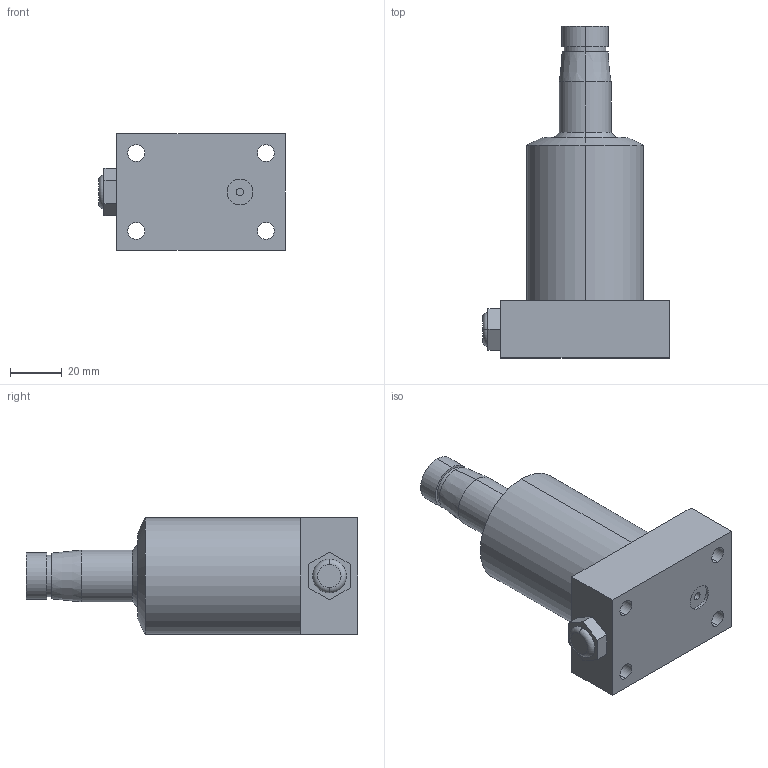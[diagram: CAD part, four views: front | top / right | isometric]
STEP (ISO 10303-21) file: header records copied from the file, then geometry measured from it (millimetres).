
FILE_DESCRIPTION (( 'STEP AP214' ), '1' );
FILE_NAME ('HPS-25-S-B.STEP', '2021-10-18T01:10:32', ( '' ), ( '' ), 'SwSTEP 2.0', 'SolidWorks 2016', '' );
FILE_SCHEMA (( 'AUTOMOTIVE_DESIGN' ));
Length unit declared in the file: millimetre
Products named in the file (1): HPS-25-S-B
Bounding box: 72 x 128 x 45 mm (x, y, z)
Volume: 172368.2 mm3; surface area: 24336.2 mm2
Topology: 1 solids, 1 shells, 53 faces, 120 edges, 75 vertices
Faces by surface type: cylinder 22, plane 21, cone 8, torus 2
Entity records: 1618 total; most frequent: DIRECTION 282, CARTESIAN_POINT 247, ORIENTED_EDGE 236, EDGE_CURVE 118, AXIS2_PLACEMENT_3D 110, VERTEX_POINT 75, EDGE_LOOP 69, VECTOR 62
